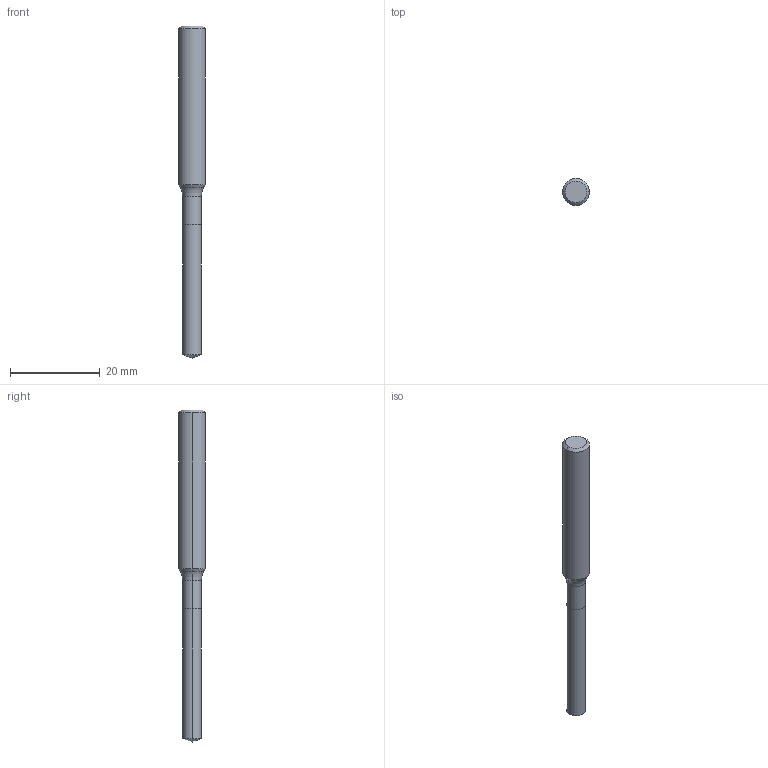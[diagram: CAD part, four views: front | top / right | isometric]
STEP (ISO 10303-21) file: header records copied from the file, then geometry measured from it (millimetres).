
FILE_DESCRIPTION (( 'STEP AP214' ), '1' );
FILE_NAME ('905.042.00_3D-model.step', '2022-02-24T17:36:01', ( '' ), ( '' ), 'SwSTEP 2.0', 'SolidWorks 2020', '' );
FILE_SCHEMA (( 'AUTOMOTIVE_DESIGN' ));
Length unit declared in the file: millimetre
Products named in the file (3): 905.042.00_3D-model; NOCUT-3D^Baugr28; CUT-3D^Baugr28
Assembly tree (2 placements, depth 2):
  905.042.00_3D-model
    CUT-3D^Baugr28
    NOCUT-3D^Baugr28
Bounding box: 6 x 6 x 74 mm (x, y, z)
Volume: 1537 mm3; surface area: 1238.2 mm2
Topology: 2 solids, 2 shells, 17 faces, 32 edges, 17 vertices
Faces by surface type: cone 6, cylinder 6, plane 3, torus 2
Entity records: 532 total; most frequent: DIRECTION 98, CARTESIAN_POINT 72, ORIENTED_EDGE 60, AXIS2_PLACEMENT_3D 43, EDGE_CURVE 30, CIRCLE 18, VERTEX_POINT 17, EDGE_LOOP 17
